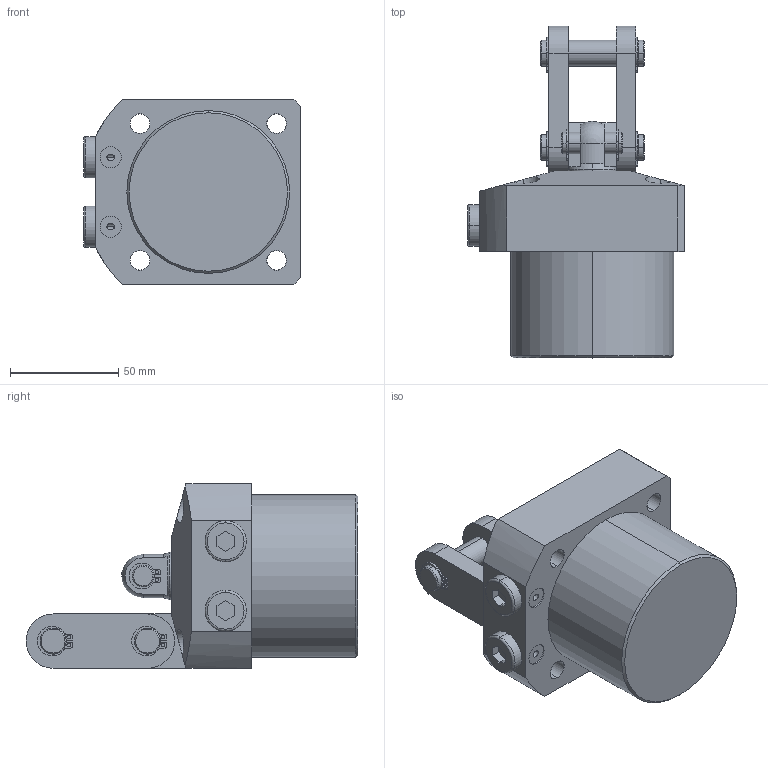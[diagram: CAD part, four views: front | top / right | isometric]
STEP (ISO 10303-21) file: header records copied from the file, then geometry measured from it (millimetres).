
FILE_DESCRIPTION (( 'STEP AP203' ), '1' );
FILE_NAME ('4171 621 L.STEP', '2017-11-25T08:41:02', ( '' ), ( '' ), 'SwSTEP 2.0', 'SolidWorks 2015', '' );
FILE_SCHEMA (( 'CONFIG_CONTROL_DESIGN' ));
Length unit declared in the file: millimetre
Products named in the file (8): PIN 2; (normal) external_is_IS 3075 NE- 10; (normal) external_is_IS 3075 NE- 12; 4171 621 L; BODY1_4171 621 L; PR; LINK; PIN 1
Assembly tree (13 placements, depth 2):
  4171 621 L
    BODY1_4171 621 L
    PR
    LINK  x2
    PIN 1
    PIN 2  x2
    (normal) external_is_IS 3075 NE- 10  x2
    (normal) external_is_IS 3075 NE- 12  x4
Bounding box: 100 x 153 x 85 mm (x, y, z)
Volume: 526797.2 mm3; surface area: 68464.8 mm2
Topology: 13 solids, 13 shells, 340 faces, 836 edges, 539 vertices
Faces by surface type: cylinder 173, plane 121, cone 40, torus 4, sphere 2
Entity records: 7618 total; most frequent: CARTESIAN_POINT 1291, DIRECTION 1196, ORIENTED_EDGE 1054, EDGE_CURVE 527, AXIS2_PLACEMENT_3D 467, VERTEX_POINT 338, EDGE_LOOP 265, LINE 262
